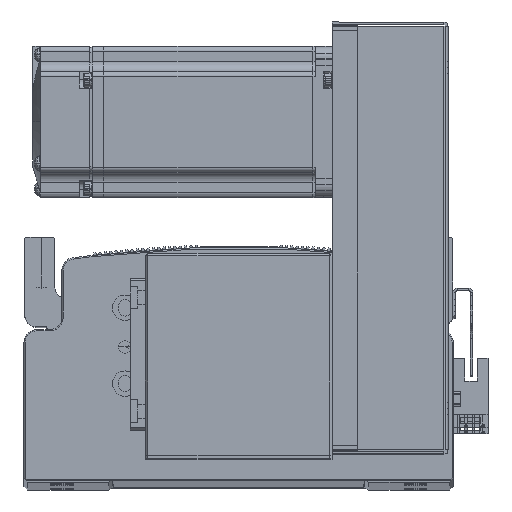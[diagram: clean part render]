
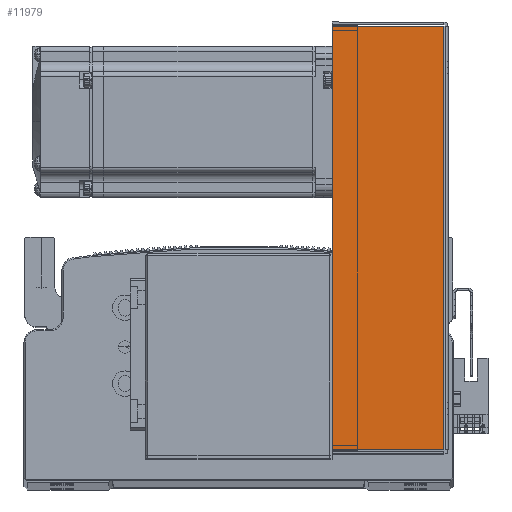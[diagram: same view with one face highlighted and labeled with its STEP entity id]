
A CAD part, top view. The second image highlights one B-rep face of the part: STEP entity #11979.
In plain terms, the highlighted planar face has unit normal (0, 0, 1).
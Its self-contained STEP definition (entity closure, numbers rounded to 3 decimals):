
#11979 = ADVANCED_FACE ( 'NONE', ( #44640 ), #54552, .F. ) ;
#41857 = AXIS2_PLACEMENT_3D ( 'NONE', #54566, #54524, #54595 ) ;
#44640 = FACE_OUTER_BOUND ( 'NONE', #60084, .T. ) ;
#44849 = DIRECTION ( 'NONE',  ( -1., 0., 0. ) ) ;
#44853 = CARTESIAN_POINT ( 'NONE',  ( -84.5, 45., 40.5 ) ) ;
#44857 = CARTESIAN_POINT ( 'NONE',  ( 83.793, 0., 40.5 ) ) ;
#44876 = CARTESIAN_POINT ( 'NONE',  ( -83.793, 0., 40.5 ) ) ;
#44889 = DIRECTION ( 'NONE',  ( 0., 1., 0. ) ) ;
#45054 = CARTESIAN_POINT ( 'NONE',  ( 0., 0.737, 40.5 ) ) ;
#45065 = DIRECTION ( 'NONE',  ( 0., 1., 0. ) ) ;
#45068 = DIRECTION ( 'NONE',  ( -1., 0., 0. ) ) ;
#48370 = VERTEX_POINT ( 'NONE', #50543 ) ;
#48389 = VERTEX_POINT ( 'NONE', #50545 ) ;
#48390 = VERTEX_POINT ( 'NONE', #50515 ) ;
#48403 = VERTEX_POINT ( 'NONE', #50535 ) ;
#50515 = CARTESIAN_POINT ( 'NONE',  ( -83.793, 0.737, 40.5 ) ) ;
#50535 = CARTESIAN_POINT ( 'NONE',  ( 83.793, 0.737, 40.5 ) ) ;
#50543 = CARTESIAN_POINT ( 'NONE',  ( -83.793, 45., 40.5 ) ) ;
#50545 = CARTESIAN_POINT ( 'NONE',  ( 83.793, 45., 40.5 ) ) ;
#52478 = VECTOR ( 'NONE', #44889, 1000. ) ;
#52482 = LINE ( 'NONE', #44853, #52492 ) ;
#52486 = LINE ( 'NONE', #44876, #52532 ) ;
#52490 = VECTOR ( 'NONE', #45068, 1000. ) ;
#52492 = VECTOR ( 'NONE', #44849, 1000. ) ;
#52502 = LINE ( 'NONE', #45054, #52490 ) ;
#52531 = LINE ( 'NONE', #44857, #52478 ) ;
#52532 = VECTOR ( 'NONE', #45065, 1000. ) ;
#54524 = DIRECTION ( 'NONE',  ( 0., 0., -1. ) ) ;
#54552 = PLANE ( 'NONE',  #41857 ) ;
#54566 = CARTESIAN_POINT ( 'NONE',  ( 0., 0., 40.5 ) ) ;
#54595 = DIRECTION ( 'NONE',  ( -1., 0., 0. ) ) ;
#58739 = EDGE_CURVE ( 'NONE', #48389, #48370, #52482, .T. ) ;
#58743 = EDGE_CURVE ( 'NONE', #48403, #48389, #52531, .T. ) ;
#58747 = EDGE_CURVE ( 'NONE', #48390, #48370, #52486, .T. ) ;
#58750 = EDGE_CURVE ( 'NONE', #48403, #48390, #52502, .T. ) ;
#60084 = EDGE_LOOP ( 'NONE', ( #68933, #68921, #68945, #68841 ) ) ;
#68841 = ORIENTED_EDGE ( 'NONE', *, *, #58747, .F. ) ;
#68921 = ORIENTED_EDGE ( 'NONE', *, *, #58743, .T. ) ;
#68933 = ORIENTED_EDGE ( 'NONE', *, *, #58750, .F. ) ;
#68945 = ORIENTED_EDGE ( 'NONE', *, *, #58739, .T. ) ;
